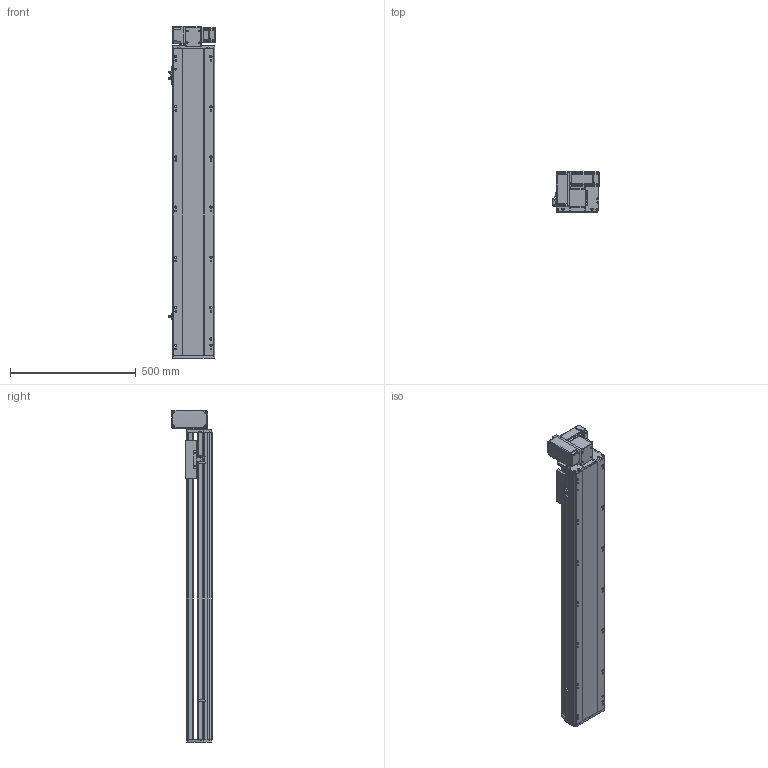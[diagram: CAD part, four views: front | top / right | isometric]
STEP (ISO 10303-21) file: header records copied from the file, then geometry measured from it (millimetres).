
FILE_DESCRIPTION (( 'STEP AP214' ), '1' );
FILE_NAME ('RTB17S-XX-950-LW-M40-C4.STEP', '2025-12-11T07:02:53', ( '' ), ( '' ), 'SwSTEP 2.0', 'SolidWorks 2018', '' );
FILE_SCHEMA (( 'AUTOMOTIVE_DESIGN' ));
Length unit declared in the file: millimetre
Products named in the file (14): RTB17S-LW-々湍釱蚾饜-400W^RTB17S-XX-XX-LW-M40-C4; RTB17S-L-004佪裝蹟譫蟀諉釱^RTB17S-XX-XX-LW-M40-C4; 400W侜督萇儂^RTB17S-XX-XX-LW-M40-C4; RTB17S-L-014-T20--々湍釱^RTB17S-LW-々湍釱蚾饜-400W_RTB17S-XX-XX-LW-M40-C4; RTB17S-L-001耜醱啣^RTB17S-XX-XX-LW-M40-C4; RTB17-R-011菁釱^RTB17S-XX-XX-LW-M40-C4; RTB14-L-005P--轴承塑胶压盖^RTB17S-LW-皮带座装配-400W_RTB17S-XX-XX-LW-M40-C4; RTB14-L-017P^RTB17S-LW-々湍釱蚾饜-400W_RTB17S-XX-XX-LW-M40-C4; RTH13-BL-012覜茼え俋离^RTB17S-XX-XX-LW-M40-C4; OMRON EE-SX672 传感器^RTB17S-XX-XX-LW-M40-C4; RTB14-L-018P^RTB17S-LW-々湍釱蚾饜-400W_RTB17S-XX-XX-LW-M40-C4; RTB14-L-008-M20--萇儂啣^RTB17S-LW-々湍釱蚾饜-400W_RTB17S-XX-XX-LW-M40-C4; RTB17S-XX-950-LW-M40-C4; RTB17S-L-007奻裔^RTB17S-XX-XX-LW-M40-C4
Assembly tree (16 placements, depth 3):
  RTB17S-XX-950-LW-M40-C4
    RTB17-R-011菁釱^RTB17S-XX-XX-LW-M40-C4
    RTB17S-L-007奻裔^RTB17S-XX-XX-LW-M40-C4
    OMRON EE-SX672 传感器^RTB17S-XX-XX-LW-M40-C4  x3
    RTB17S-L-001耜醱啣^RTB17S-XX-XX-LW-M40-C4
    400W侜督萇儂^RTB17S-XX-XX-LW-M40-C4
    RTB17S-L-004佪裝蹟譫蟀諉釱^RTB17S-XX-XX-LW-M40-C4
    RTH13-BL-012覜茼え俋离^RTB17S-XX-XX-LW-M40-C4
    RTB17S-LW-々湍釱蚾饜-400W^RTB17S-XX-XX-LW-M40-C4
      RTB17S-L-014-T20--々湍釱^RTB17S-LW-々湍釱蚾饜-400W_RTB17S-XX-XX-LW-M40-C4
      RTB14-L-005P--轴承塑胶压盖^RTB17S-LW-皮带座装配-400W_RTB17S-XX-XX-LW-M40-C4
      RTB14-L-008-M20--萇儂啣^RTB17S-LW-々湍釱蚾饜-400W_RTB17S-XX-XX-LW-M40-C4
      RTB14-L-017P^RTB17S-LW-々湍釱蚾饜-400W_RTB17S-XX-XX-LW-M40-C4  x2
      RTB14-L-018P^RTB17S-LW-々湍釱蚾饜-400W_RTB17S-XX-XX-LW-M40-C4
Bounding box: 186 x 160.5 x 1322.5 mm (x, y, z)
Volume: 11966621.3 mm3; surface area: 1453600.3 mm2
Topology: 15 solids, 15 shells, 2205 faces, 6087 edges, 3969 vertices
Faces by surface type: plane 1068, cylinder 689, bspline 301, cone 139, torus 8
Entity records: 62633 total; most frequent: CARTESIAN_POINT 17492, ORIENTED_EDGE 9018, DIRECTION 8396, EDGE_CURVE 4509, VERTEX_POINT 2957, AXIS2_PLACEMENT_3D 2887, LINE 2622, VECTOR 2622
